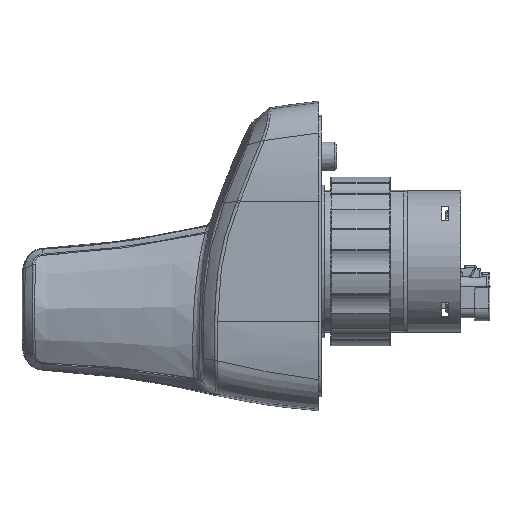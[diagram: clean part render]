
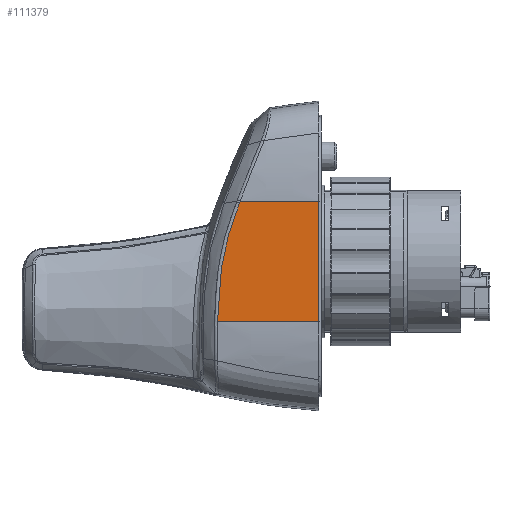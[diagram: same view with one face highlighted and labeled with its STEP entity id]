
A CAD part, left-side view. The second image highlights one B-rep face of the part: STEP entity #111379.
In plain terms, the highlighted planar face has unit normal (0.999, 0, -0.035) by its records, which use the part's own axes.
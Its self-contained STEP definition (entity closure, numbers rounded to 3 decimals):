
#70807=CARTESIAN_POINT('',(-45.035,51.01,
42.368));
#70808=CARTESIAN_POINT('',(-45.035,49.305,
42.346));
#70809=CARTESIAN_POINT('',(-45.038,45.898,
42.274));
#70810=CARTESIAN_POINT('',(-45.046,40.783,
42.031));
#70811=CARTESIAN_POINT('',(-45.06,35.703,
41.64));
#70812=CARTESIAN_POINT('',(-45.08,30.626,
41.069));
#70813=CARTESIAN_POINT('',(-45.107,25.601,
40.294));
#70814=CARTESIAN_POINT('',(-45.142,20.603,
39.287));
#70815=CARTESIAN_POINT('',(-45.185,15.68,
38.063));
#70816=CARTESIAN_POINT('',(-45.236,10.805,
36.617));
#70817=CARTESIAN_POINT('',(-45.293,6.019,
34.971));
#70818=CARTESIAN_POINT('',(-45.335,2.859,
33.782));
#70819=CARTESIAN_POINT('',(-45.356,1.282,
33.176));
#70821=DIRECTION('',(0.035,0.,0.999));
#70822=VECTOR('',#70821,42.394);
#70823=CARTESIAN_POINT('',(-46.514,51.01,
0.));
#70824=LINE('',#70823,#70822);
#70825=DIRECTION('',(0.,1.,0.));
#70826=VECTOR('',#70825,50.453);
#70827=CARTESIAN_POINT('',(-46.514,0.556,0.));
#70828=LINE('',#70827,#70826);
#70829=CARTESIAN_POINT('',(-45.356,1.282,
33.176));
#70830=CARTESIAN_POINT('',(-45.357,1.224,
33.153));
#70831=CARTESIAN_POINT('',(-45.358,1.106,
33.108));
#70832=CARTESIAN_POINT('',(-45.361,0.872,
33.017));
#70833=CARTESIAN_POINT('',(-45.364,0.689,
32.946));
#70834=CARTESIAN_POINT('',(-45.365,0.565,
32.897));
#70835=CARTESIAN_POINT('',(-45.366,0.557,
32.894));
#70836=CARTESIAN_POINT('',(-45.366,0.557,
32.894));
#70999=CARTESIAN_POINT('',(-45.356,1.282,
33.176));
#71221=DIRECTION('',(0.035,0.,0.999));
#71222=VECTOR('',#71221,32.914);
#71223=CARTESIAN_POINT('',(-46.514,0.556,0.));
#71224=LINE('',#71223,#71222);
#82558=CARTESIAN_POINT('',(-46.514,51.01,
0.));
#82559=CARTESIAN_POINT('',(-45.035,51.01,
42.368));
#82560=VERTEX_POINT('',#82558);
#82561=VERTEX_POINT('',#82559);
#82562=CARTESIAN_POINT('',(-46.514,0.556,0.));
#82563=CARTESIAN_POINT('',(-45.366,0.557,
32.894));
#82564=VERTEX_POINT('',#82562);
#82565=VERTEX_POINT('',#82563);
#82566=VERTEX_POINT('',#70999);
#111363=CARTESIAN_POINT('',(-45.767,25.783,
21.408));
#111364=DIRECTION('',(0.999,0.,-0.035));
#111365=DIRECTION('',(0.035,0.,0.999));
#111366=AXIS2_PLACEMENT_3D('',#111363,#111364,#111365);
#111367=PLANE('',#111366);
#111369=ORIENTED_EDGE('',*,*,#111368,.F.);
#111370=ORIENTED_EDGE('',*,*,#111353,.F.);
#111372=ORIENTED_EDGE('',*,*,#111371,.F.);
#111374=ORIENTED_EDGE('',*,*,#111373,.T.);
#111376=ORIENTED_EDGE('',*,*,#111375,.F.);
#111377=EDGE_LOOP('',(#111369,#111370,#111372,#111374,#111376));
#111378=FACE_OUTER_BOUND('',#111377,.F.);
#111379=ADVANCED_FACE('',(#111378),#111367,.T.);
#70820=B_SPLINE_CURVE_WITH_KNOTS('',3,(#70807,#70808,#70809,#70810,#70811,
#70812,#70813,#70814,#70815,#70816,#70817,#70818,#70819),.UNSPECIFIED.,.F.,.F.,(
4,1,1,1,1,1,1,1,1,1,4),(0.,0.1,0.2,0.3,0.4,0.5,0.6,0.7,0.8,
0.9,1.),.UNSPECIFIED.);
#70837=B_SPLINE_CURVE_WITH_KNOTS('',3,(#70829,#70830,#70831,#70832,#70833,
#70834,#70835,#70836),.UNSPECIFIED.,.F.,.F.,(4,1,1,1,1,4),(0.,
0.242,0.484,0.969,0.999,1.),
.UNSPECIFIED.);
#111353=EDGE_CURVE('',#82560,#82561,#70824,.T.);
#111368=EDGE_CURVE('',#82561,#82566,#70820,.T.);
#111371=EDGE_CURVE('',#82564,#82560,#70828,.T.);
#111373=EDGE_CURVE('',#82564,#82565,#71224,.T.);
#111375=EDGE_CURVE('',#82566,#82565,#70837,.T.);
